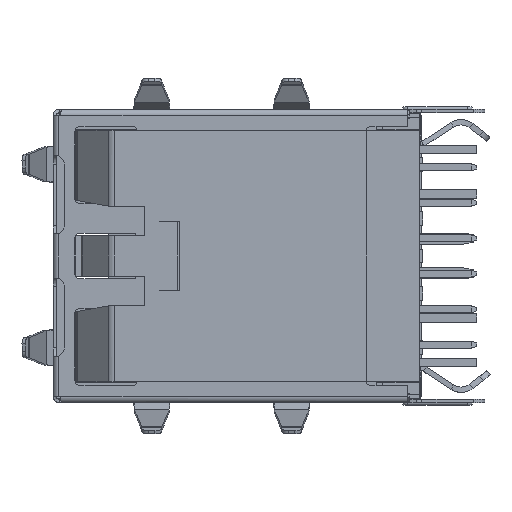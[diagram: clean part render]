
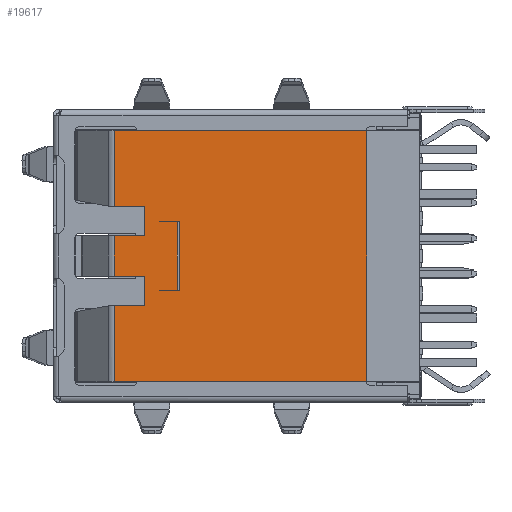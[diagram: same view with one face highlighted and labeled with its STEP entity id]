
A CAD part, left-side view. The second image highlights one B-rep face of the part: STEP entity #19617.
In plain terms, the highlighted planar face has unit normal (-1, 0, 0).
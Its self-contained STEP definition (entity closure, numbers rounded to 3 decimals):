
#3040=DIRECTION('',(0.,0.,1.));
#3041=VECTOR('',#3040,0.035);
#3042=CARTESIAN_POINT('',(-14.594,7.027,7.175));
#3043=LINE('',#3042,#3041);
#3056=DIRECTION('',(0.,0.,1.));
#3057=VECTOR('',#3056,0.035);
#3058=CARTESIAN_POINT('',(-14.594,7.027,-7.21));
#3059=LINE('',#3058,#3057);
#3060=DIRECTION('',(0.,0.,1.));
#3061=VECTOR('',#3060,0.04);
#3062=CARTESIAN_POINT('',(-14.594,7.027,-2.));
#3063=LINE('',#3062,#3061);
#3074=DIRECTION('',(0.,0.,1.));
#3075=VECTOR('',#3074,0.04);
#3076=CARTESIAN_POINT('',(-14.594,7.027,1.96));
#3077=LINE('',#3076,#3075);
#3086=DIRECTION('',(0.,1.,0.));
#3087=VECTOR('',#3086,11.85);
#3088=CARTESIAN_POINT('',(-14.594,-4.823,-7.175));
#3089=LINE('',#3088,#3087);
#3090=DIRECTION('',(0.,1.,0.));
#3091=VECTOR('',#3090,2.593);
#3092=CARTESIAN_POINT('',(-14.594,7.027,-7.21));
#3093=LINE('',#3092,#3091);
#3094=DIRECTION('',(0.,-1.,0.));
#3095=VECTOR('',#3094,1.743);
#3096=CARTESIAN_POINT('',(-14.594,9.62,
-2.825));
#3097=LINE('',#3096,#3095);
#3098=DIRECTION('',(0.,0.,1.));
#3099=VECTOR('',#3098,1.675);
#3100=CARTESIAN_POINT('',(-14.594,7.877,1.15));
#3101=LINE('',#3100,#3099);
#3102=DIRECTION('',(0.,-1.,0.));
#3103=VECTOR('',#3102,11.85);
#3104=CARTESIAN_POINT('',(-14.594,7.027,7.175));
#3105=LINE('',#3104,#3103);
#3106=DIRECTION('',(0.,0.,-1.));
#3107=VECTOR('',#3106,14.35);
#3108=CARTESIAN_POINT('',(-14.594,-4.823,7.175));
#3109=LINE('',#3108,#3107);
#3114=DIRECTION('',(0.,1.,0.));
#3115=VECTOR('',#3114,1.15);
#3116=CARTESIAN_POINT('',(-14.594,5.877,2.));
#3117=LINE('',#3116,#3115);
#3130=DIRECTION('',(0.,0.,-1.));
#3131=VECTOR('',#3130,4.);
#3132=CARTESIAN_POINT('',(-14.594,5.877,2.));
#3133=LINE('',#3132,#3131);
#3166=DIRECTION('',(0.,1.,0.));
#3167=VECTOR('',#3166,1.15);
#3168=CARTESIAN_POINT('',(-14.594,5.877,
-2.));
#3169=LINE('',#3168,#3167);
#3182=DIRECTION('',(0.,1.,0.));
#3183=VECTOR('',#3182,1.);
#3184=CARTESIAN_POINT('',(-14.594,6.027,1.96));
#3185=LINE('',#3184,#3183);
#3194=DIRECTION('',(0.,0.,1.));
#3195=VECTOR('',#3194,3.92);
#3196=CARTESIAN_POINT('',(-14.594,6.027,
-1.96));
#3197=LINE('',#3196,#3195);
#3242=DIRECTION('',(0.,1.,0.));
#3243=VECTOR('',#3242,1.);
#3244=CARTESIAN_POINT('',(-14.594,6.027,
-1.96));
#3245=LINE('',#3244,#3243);
#3254=DIRECTION('',(0.,0.,-1.));
#3255=VECTOR('',#3254,4.385);
#3256=CARTESIAN_POINT('',(-14.594,9.62,
-2.825));
#3257=LINE('',#3256,#3255);
#3278=DIRECTION('',(0.,0.,1.));
#3279=VECTOR('',#3278,1.675);
#3280=CARTESIAN_POINT('',(-14.594,7.877,
-2.825));
#3281=LINE('',#3280,#3279);
#3296=DIRECTION('',(0.,1.,0.));
#3297=VECTOR('',#3296,1.743);
#3298=CARTESIAN_POINT('',(-14.594,7.877,
-1.15));
#3299=LINE('',#3298,#3297);
#3366=DIRECTION('',(0.,1.,0.));
#3367=VECTOR('',#3366,1.743);
#3368=CARTESIAN_POINT('',(-14.594,7.877,1.15));
#3369=LINE('',#3368,#3367);
#4058=DIRECTION('',(0.,1.,0.));
#4059=VECTOR('',#4058,1.743);
#4060=CARTESIAN_POINT('',(-14.594,7.877,2.825));
#4061=LINE('',#4060,#4059);
#4162=DIRECTION('',(0.,1.,0.));
#4163=VECTOR('',#4162,2.593);
#4164=CARTESIAN_POINT('',(-14.594,7.027,7.21));
#4165=LINE('',#4164,#4163);
#4188=DIRECTION('',(0.,0.,-1.));
#4189=VECTOR('',#4188,4.385);
#4190=CARTESIAN_POINT('',(-14.594,9.62,7.21));
#4191=LINE('',#4190,#4189);
#4208=DIRECTION('',(0.,0.,-1.));
#4209=VECTOR('',#4208,2.3);
#4210=CARTESIAN_POINT('',(-14.594,9.62,1.15));
#4211=LINE('',#4210,#4209);
#11709=CARTESIAN_POINT('',(-14.594,7.877,
2.825));
#11710=VERTEX_POINT('',#11709);
#11711=CARTESIAN_POINT('',(-14.594,7.877,
1.15));
#11712=VERTEX_POINT('',#11711);
#11737=CARTESIAN_POINT('',(-14.594,7.877,
-2.825));
#11738=VERTEX_POINT('',#11737);
#11739=CARTESIAN_POINT('',(-14.594,9.62,
-2.825));
#11740=VERTEX_POINT('',#11739);
#11769=CARTESIAN_POINT('',(-14.594,9.62,-7.21));
#11770=VERTEX_POINT('',#11769);
#11771=CARTESIAN_POINT('',(-14.594,7.027,-7.21));
#11772=VERTEX_POINT('',#11771);
#11773=CARTESIAN_POINT('',(-14.594,7.877,
-1.15));
#11774=VERTEX_POINT('',#11773);
#11775=CARTESIAN_POINT('',(-14.594,9.62,
-1.15));
#11776=VERTEX_POINT('',#11775);
#11777=CARTESIAN_POINT('',(-14.594,9.62,
1.15));
#11778=VERTEX_POINT('',#11777);
#11779=CARTESIAN_POINT('',(-14.594,9.62,
2.825));
#11780=VERTEX_POINT('',#11779);
#11781=CARTESIAN_POINT('',(-14.594,9.62,7.21));
#11782=VERTEX_POINT('',#11781);
#11783=CARTESIAN_POINT('',(-14.594,7.027,7.21));
#11784=VERTEX_POINT('',#11783);
#11785=CARTESIAN_POINT('',(-14.594,6.027,
1.96));
#11786=CARTESIAN_POINT('',(-14.594,7.027,
1.96));
#11787=VERTEX_POINT('',#11785);
#11788=VERTEX_POINT('',#11786);
#11789=CARTESIAN_POINT('',(-14.594,6.027,
-1.96));
#11790=VERTEX_POINT('',#11789);
#11791=CARTESIAN_POINT('',(-14.594,7.027,
-1.96));
#11792=VERTEX_POINT('',#11791);
#11895=CARTESIAN_POINT('',(-14.594,-4.823,-7.175));
#11897=VERTEX_POINT('',#11895);
#11898=CARTESIAN_POINT('',(-14.594,-4.823,7.175));
#11899=VERTEX_POINT('',#11898);
#11942=CARTESIAN_POINT('',(-14.594,5.877,
2.));
#11943=CARTESIAN_POINT('',(-14.594,5.877,
-2.));
#11944=VERTEX_POINT('',#11942);
#11945=VERTEX_POINT('',#11943);
#14719=CARTESIAN_POINT('',(-14.594,7.027,-7.175));
#14721=VERTEX_POINT('',#14719);
#14724=CARTESIAN_POINT('',(-14.594,7.027,7.175));
#14725=VERTEX_POINT('',#14724);
#14726=CARTESIAN_POINT('',(-14.594,7.027,-2.));
#14728=VERTEX_POINT('',#14726);
#14732=CARTESIAN_POINT('',(-14.594,7.027,2.));
#14733=VERTEX_POINT('',#14732);
#19567=CARTESIAN_POINT('',(-14.594,1.102,0.));
#19568=DIRECTION('',(1.,0.,0.));
#19569=DIRECTION('',(0.,0.,1.));
#19570=AXIS2_PLACEMENT_3D('',#19567,#19568,#19569);
#19571=PLANE('',#19570);
#19572=ORIENTED_EDGE('',*,*,#19558,.T.);
#19573=ORIENTED_EDGE('',*,*,#19467,.F.);
#19574=ORIENTED_EDGE('',*,*,#19236,.T.);
#19576=ORIENTED_EDGE('',*,*,#19575,.F.);
#19577=ORIENTED_EDGE('',*,*,#19349,.T.);
#19579=ORIENTED_EDGE('',*,*,#19578,.T.);
#19581=ORIENTED_EDGE('',*,*,#19580,.T.);
#19583=ORIENTED_EDGE('',*,*,#19582,.F.);
#19585=ORIENTED_EDGE('',*,*,#19584,.F.);
#19587=ORIENTED_EDGE('',*,*,#19586,.T.);
#19589=ORIENTED_EDGE('',*,*,#19588,.T.);
#19591=ORIENTED_EDGE('',*,*,#19590,.F.);
#19593=ORIENTED_EDGE('',*,*,#19592,.F.);
#19594=ORIENTED_EDGE('',*,*,#19461,.F.);
#19596=ORIENTED_EDGE('',*,*,#19595,.T.);
#19598=ORIENTED_EDGE('',*,*,#19597,.T.);
#19599=EDGE_LOOP('',(#19572,#19573,#19574,#19576,#19577,#19579,#19581,#19583,
#19585,#19587,#19589,#19591,#19593,#19594,#19596,#19598));
#19600=FACE_OUTER_BOUND('',#19599,.F.);
#19602=ORIENTED_EDGE('',*,*,#19601,.T.);
#19603=ORIENTED_EDGE('',*,*,#19491,.F.);
#19605=ORIENTED_EDGE('',*,*,#19604,.F.);
#19607=ORIENTED_EDGE('',*,*,#19606,.F.);
#19609=ORIENTED_EDGE('',*,*,#19608,.T.);
#19610=ORIENTED_EDGE('',*,*,#19479,.F.);
#19612=ORIENTED_EDGE('',*,*,#19611,.F.);
#19614=ORIENTED_EDGE('',*,*,#19613,.F.);
#19615=EDGE_LOOP('',(#19602,#19603,#19605,#19607,#19609,#19610,#19612,#19614));
#19616=FACE_BOUND('',#19615,.F.);
#19617=ADVANCED_FACE('',(#19600,#19616),#19571,.F.);
#19236=EDGE_CURVE('',#11772,#11770,#3093,.T.);
#19349=EDGE_CURVE('',#11740,#11738,#3097,.T.);
#19461=EDGE_CURVE('',#14725,#11784,#3043,.T.);
#19467=EDGE_CURVE('',#11772,#14721,#3059,.T.);
#19479=EDGE_CURVE('',#14728,#11792,#3063,.T.);
#19491=EDGE_CURVE('',#11788,#14733,#3077,.T.);
#19558=EDGE_CURVE('',#11897,#14721,#3089,.T.);
#19575=EDGE_CURVE('',#11740,#11770,#3257,.T.);
#19578=EDGE_CURVE('',#11738,#11774,#3281,.T.);
#19580=EDGE_CURVE('',#11774,#11776,#3299,.T.);
#19582=EDGE_CURVE('',#11778,#11776,#4211,.T.);
#19584=EDGE_CURVE('',#11712,#11778,#3369,.T.);
#19586=EDGE_CURVE('',#11712,#11710,#3101,.T.);
#19588=EDGE_CURVE('',#11710,#11780,#4061,.T.);
#19590=EDGE_CURVE('',#11782,#11780,#4191,.T.);
#19592=EDGE_CURVE('',#11784,#11782,#4165,.T.);
#19595=EDGE_CURVE('',#14725,#11899,#3105,.T.);
#19597=EDGE_CURVE('',#11899,#11897,#3109,.T.);
#19601=EDGE_CURVE('',#11944,#14733,#3117,.T.);
#19604=EDGE_CURVE('',#11787,#11788,#3185,.T.);
#19606=EDGE_CURVE('',#11790,#11787,#3197,.T.);
#19608=EDGE_CURVE('',#11790,#11792,#3245,.T.);
#19611=EDGE_CURVE('',#11945,#14728,#3169,.T.);
#19613=EDGE_CURVE('',#11944,#11945,#3133,.T.);
